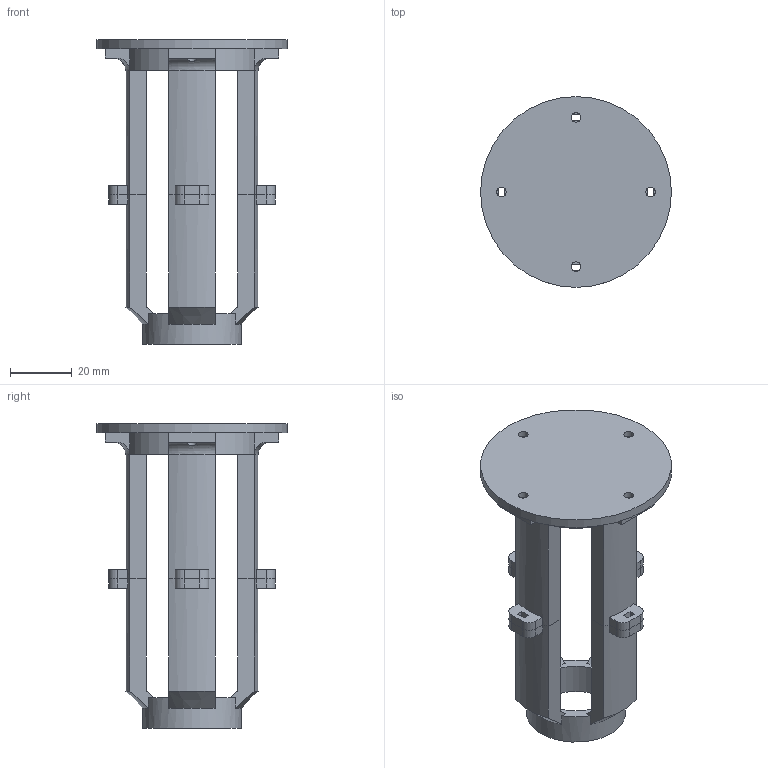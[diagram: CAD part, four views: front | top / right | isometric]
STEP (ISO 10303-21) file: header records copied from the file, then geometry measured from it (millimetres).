
FILE_DESCRIPTION(/* description */ (''),/* implementation_level */ '2;1');
FILE_NAME(/* name */ 'SoldenoidHolder v14.step',/* time_stamp */ '2023-08-25T16:37:16+03:00',/* author */ (''),/* organization */ (''),/* preprocessor_version */ 'ST-DEVELOPER v20',/* originating_system */ 'Autodesk Translation Framework v12.9.0.99',/* authorisation */ '');
FILE_SCHEMA (('AUTOMOTIVE_DESIGN { 1 0 10303 214 3 1 1 }'));
Length unit declared in the file: millimetre
Products named in the file (1): DuranLTubeToSoldenoidHolderBottomPart
Bounding box: 62 x 62 x 99 mm (x, y, z)
Volume: 44492.9 mm3; surface area: 28782 mm2
Topology: 3 solids, 3 shells, 210 faces, 579 edges, 378 vertices
Faces by surface type: plane 157, cylinder 41, cone 8, torus 4
Full cylindrical faces by diameter (mm): 3.1 x8, 25 x1, 32 x1, 33.243 x1, 43.142 x1, 62 x1
Entity records: 6978 total; most frequent: CARTESIAN_POINT 1478, ORIENTED_EDGE 1158, DIRECTION 1103, EDGE_CURVE 579, LINE 413, VECTOR 413, VERTEX_POINT 378, AXIS2_PLACEMENT_3D 345
